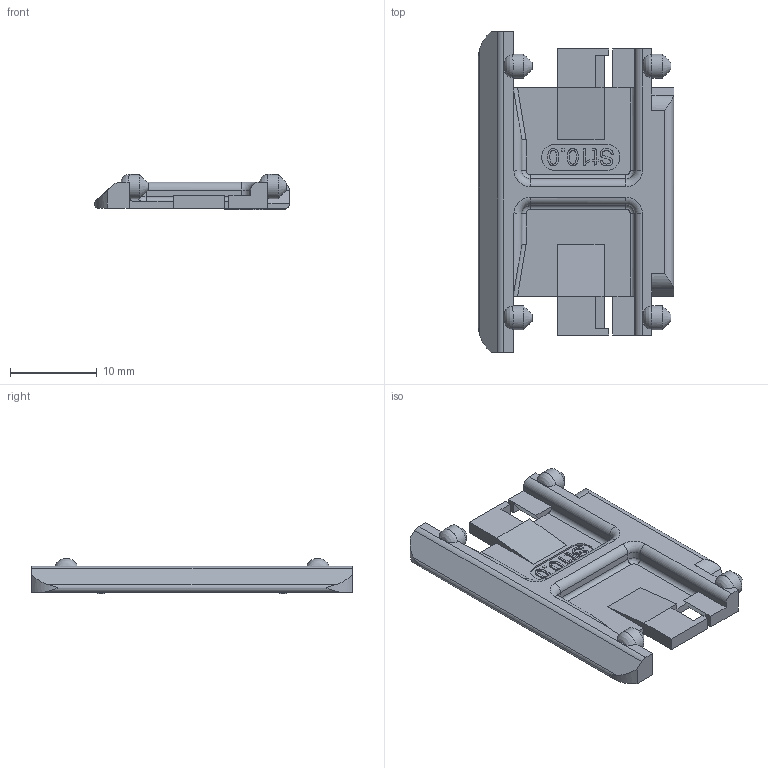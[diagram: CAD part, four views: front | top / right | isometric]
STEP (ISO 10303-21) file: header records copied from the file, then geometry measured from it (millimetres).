
FILE_DESCRIPTION((''),'2;1');
FILE_NAME('C:\Uebbing\PARAMETERKETTEN\KOLIBRI\Kol_30_050_1\Kol 30_050_0 Klappsteg.stp','2011-11-02T11:41:34',('Uebbing'),(''),'Autodesk Inventor 10','Autodesk Inventor 10','');
FILE_SCHEMA(('AUTOMOTIVE_DESIGN { 1 0 10303 214 1 1 1 1 }'));
Length unit declared in the file: millimetre
Products named in the file (1): Kol 30_050_0 Klappsteg
Bounding box: 22.5 x 37 x 4.05 mm (x, y, z)
Volume: 1242.8 mm3; surface area: 1851.5 mm2
Topology: 1 solids, 1 shells, 269 faces, 759 edges, 501 vertices
Faces by surface type: plane 116, bspline 93, cylinder 52, cone 4, torus 4
Full cylindrical faces by diameter (mm): 2.8 x4
Entity records: 9668 total; most frequent: CARTESIAN_POINT 3312, ORIENTED_EDGE 1486, DIRECTION 1026, EDGE_CURVE 743, VERTEX_POINT 493, VECTOR 438, LINE 438, AXIS2_PLACEMENT_3D 294
